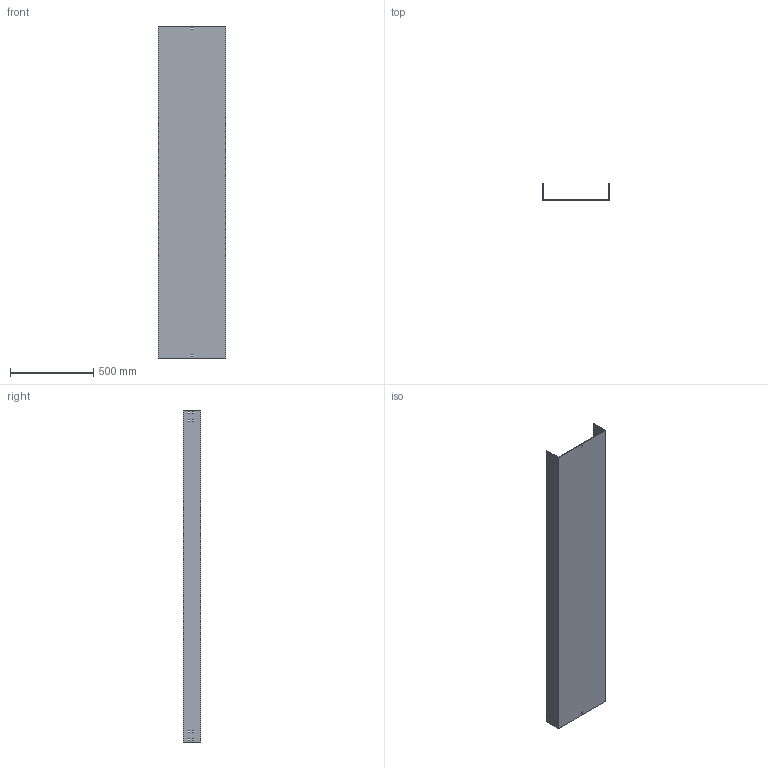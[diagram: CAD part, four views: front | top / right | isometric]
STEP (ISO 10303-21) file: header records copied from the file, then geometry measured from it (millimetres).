
FILE_DESCRIPTION (( 'STEP AP214' ), '1' );
FILE_NAME ('03F2D400.step', '2025-02-21T13:15:59', ( '' ), ( '' ), 'SwSTEP 2.0', 'SolidWorks 2023', '' );
FILE_SCHEMA (( 'AUTOMOTIVE_DESIGN' ));
Length unit declared in the file: millimetre
Products named in the file (1): 03F2D400
Bounding box: 404 x 104 x 2000 mm (x, y, z)
Volume: 4230670.5 mm3; surface area: 2437882 mm2
Topology: 1 solids, 1 shells, 82 faces, 240 edges, 160 vertices
Faces by surface type: plane 82
Entity records: 2759 total; most frequent: CARTESIAN_POINT 483, ORIENTED_EDGE 480, DIRECTION 406, VECTOR 240, EDGE_CURVE 240, LINE 240, VERTEX_POINT 160, EDGE_LOOP 118
